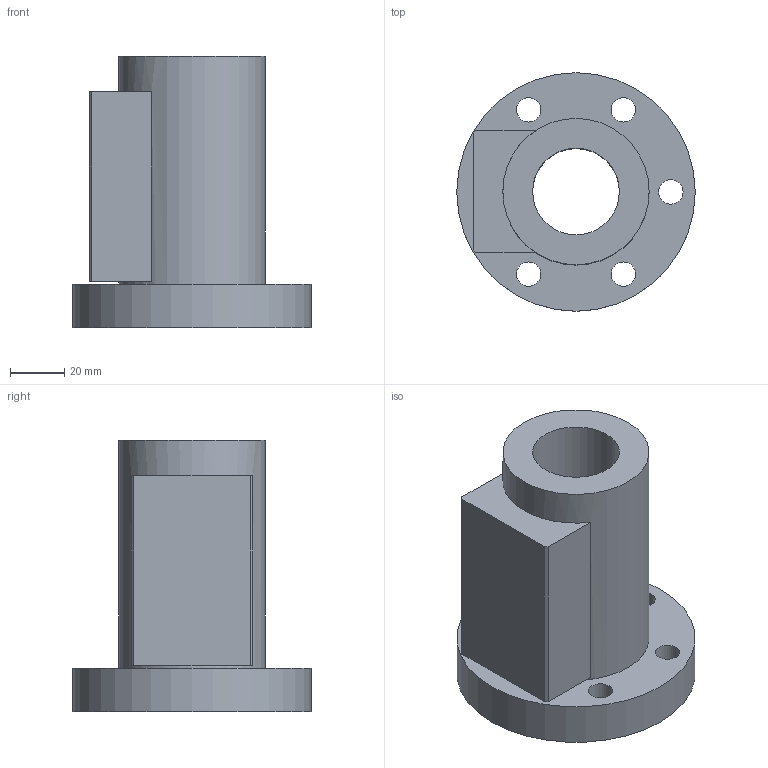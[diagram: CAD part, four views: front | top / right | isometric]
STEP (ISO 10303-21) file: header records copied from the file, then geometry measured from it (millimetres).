
FILE_DESCRIPTION(/* description */ (''),/* implementation_level */ '2;1');
FILE_NAME(/* name */ '32-16B1',/* time_stamp */ '2006-07-31T10:12:15+08:00',/* author */ (''),/* organization */ (''),/* preprocessor_version */ 'ST-DEVELOPER v9',/* originating_system */ 'UGS - NX 4.0',/* authorisation */ '');
FILE_SCHEMA (('CONFIG_CONTROL_DESIGN'));
Length unit declared in the file: millimetre
Products named in the file (1): 32-16B1
Bounding box: 88 x 88 x 100 mm (x, y, z)
Volume: 246192.7 mm3; surface area: 45469.8 mm2
Topology: 1 solids, 1 shells, 30 faces, 67 edges, 46 vertices
Faces by surface type: plane 17, cylinder 13
Full cylindrical faces by diameter (mm): 9 x5, 14 x5, 32 x1, 54 x1, 88 x1
Entity records: 860 total; most frequent: DIRECTION 140, CARTESIAN_POINT 123, ORIENTED_EDGE 100, EDGE_LOOP 62, AXIS2_PLACEMENT_3D 59, EDGE_CURVE 50, FACE_BOUND 45, VERTEX_POINT 42
